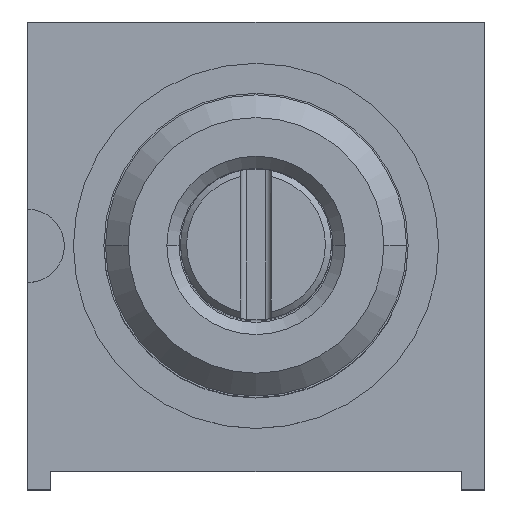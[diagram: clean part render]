
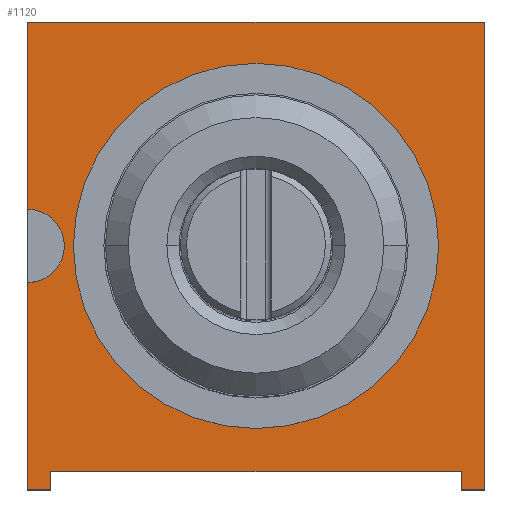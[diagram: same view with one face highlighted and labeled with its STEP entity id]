
A CAD part, top view. The second image highlights one B-rep face of the part: STEP entity #1120.
In plain terms, the highlighted planar face has unit normal (0, 0, 1).
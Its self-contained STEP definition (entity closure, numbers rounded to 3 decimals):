
#92=CIRCLE('',#1247,0.762);
#93=CIRCLE('',#1249,3.81);
#94=CIRCLE('',#1250,3.81);
#399=ORIENTED_EDGE('',*,*,#573,.F.);
#400=ORIENTED_EDGE('',*,*,#574,.F.);
#401=ORIENTED_EDGE('',*,*,#568,.T.);
#402=ORIENTED_EDGE('',*,*,#564,.T.);
#403=ORIENTED_EDGE('',*,*,#562,.T.);
#404=ORIENTED_EDGE('',*,*,#560,.T.);
#405=ORIENTED_EDGE('',*,*,#533,.T.);
#406=ORIENTED_EDGE('',*,*,#531,.T.);
#407=ORIENTED_EDGE('',*,*,#545,.T.);
#408=ORIENTED_EDGE('',*,*,#555,.T.);
#409=ORIENTED_EDGE('',*,*,#571,.T.);
#410=ORIENTED_EDGE('',*,*,#572,.F.);
#531=EDGE_CURVE('',#655,#654,#735,.T.);
#533=EDGE_CURVE('',#656,#655,#737,.T.);
#545=EDGE_CURVE('',#654,#665,#749,.T.);
#555=EDGE_CURVE('',#665,#670,#759,.T.);
#560=EDGE_CURVE('',#672,#656,#764,.T.);
#562=EDGE_CURVE('',#673,#672,#766,.T.);
#564=EDGE_CURVE('',#674,#673,#768,.T.);
#568=EDGE_CURVE('',#677,#674,#771,.T.);
#571=EDGE_CURVE('',#670,#678,#774,.T.);
#572=EDGE_CURVE('',#677,#678,#92,.T.);
#573=EDGE_CURVE('',#679,#680,#93,.T.);
#574=EDGE_CURVE('',#680,#679,#94,.T.);
#654=VERTEX_POINT('',#1864);
#655=VERTEX_POINT('',#1866);
#656=VERTEX_POINT('',#1870);
#665=VERTEX_POINT('',#1893);
#670=VERTEX_POINT('',#1912);
#672=VERTEX_POINT('',#1922);
#673=VERTEX_POINT('',#1926);
#674=VERTEX_POINT('',#1930);
#677=VERTEX_POINT('',#1939);
#678=VERTEX_POINT('',#1942);
#679=VERTEX_POINT('',#1948);
#680=VERTEX_POINT('',#1949);
#735=LINE('',#1865,#829);
#737=LINE('',#1869,#831);
#749=LINE('',#1894,#843);
#759=LINE('',#1913,#853);
#764=LINE('',#1921,#858);
#766=LINE('',#1925,#860);
#768=LINE('',#1929,#862);
#771=LINE('',#1938,#865);
#774=LINE('',#1943,#868);
#829=VECTOR('',#1498,1000.);
#831=VECTOR('',#1502,1000.);
#843=VECTOR('',#1520,1000.);
#853=VECTOR('',#1538,1000.);
#858=VECTOR('',#1547,1000.);
#860=VECTOR('',#1551,1000.);
#862=VECTOR('',#1555,1000.);
#865=VECTOR('',#1564,1000.);
#868=VECTOR('',#1567,1000.);
#941=EDGE_LOOP('',(#399,#400));
#942=EDGE_LOOP('',(#401,#402,#403,#404,#405,#406,#407,#408,#409,#410));
#1017=FACE_BOUND('',#941,.T.);
#1018=FACE_BOUND('',#942,.T.);
#1057=PLANE('',#1248);
#1120=ADVANCED_FACE('',(#1017,#1018),#1057,.T.);
#1247=AXIS2_PLACEMENT_3D('',#1945,#1570,#1571);
#1248=AXIS2_PLACEMENT_3D('',#1946,#1572,#1573);
#1249=AXIS2_PLACEMENT_3D('',#1947,#1574,#1575);
#1250=AXIS2_PLACEMENT_3D('',#1950,#1576,#1577);
#1498=DIRECTION('',(1.,0.,0.));
#1502=DIRECTION('',(0.,-1.,0.));
#1520=DIRECTION('',(0.,1.,0.));
#1538=DIRECTION('',(-1.,0.,0.));
#1547=DIRECTION('',(1.,0.,0.));
#1551=DIRECTION('',(0.,1.,0.));
#1555=DIRECTION('',(1.,0.,0.));
#1564=DIRECTION('',(0.,-1.,0.));
#1567=DIRECTION('',(0.,-1.,0.));
#1570=DIRECTION('',(0.,0.,1.));
#1571=DIRECTION('',(0.,-1.,0.));
#1572=DIRECTION('',(0.,0.,1.));
#1573=DIRECTION('',(1.,0.,0.));
#1574=DIRECTION('',(0.,0.,1.));
#1575=DIRECTION('',(1.,0.,0.));
#1576=DIRECTION('',(0.,0.,1.));
#1577=DIRECTION('',(-1.,0.,0.));
#1864=CARTESIAN_POINT('',(4.763,-5.08,-0.203));
#1865=CARTESIAN_POINT('',(4.28,-5.08,-0.203));
#1866=CARTESIAN_POINT('',(4.28,-5.08,-0.203));
#1869=CARTESIAN_POINT('',(4.28,-4.699,-0.203));
#1870=CARTESIAN_POINT('',(4.28,-4.699,-0.203));
#1893=CARTESIAN_POINT('',(4.763,4.674,-0.203));
#1894=CARTESIAN_POINT('',(4.763,-5.08,-0.203));
#1912=CARTESIAN_POINT('',(-4.763,4.674,-0.203));
#1913=CARTESIAN_POINT('',(4.763,4.674,-0.203));
#1921=CARTESIAN_POINT('',(-4.28,-4.699,-0.203));
#1922=CARTESIAN_POINT('',(-4.28,-4.699,-0.203));
#1925=CARTESIAN_POINT('',(-4.28,-5.08,-0.203));
#1926=CARTESIAN_POINT('',(-4.28,-5.08,-0.203));
#1929=CARTESIAN_POINT('',(-4.763,-5.08,-0.203));
#1930=CARTESIAN_POINT('',(-4.763,-5.08,-0.203));
#1938=CARTESIAN_POINT('',(-4.762,-0.762,-0.203));
#1939=CARTESIAN_POINT('',(-4.763,-0.762,-0.203));
#1942=CARTESIAN_POINT('',(-4.763,0.762,-0.203));
#1943=CARTESIAN_POINT('',(-4.763,4.674,-0.203));
#1945=CARTESIAN_POINT('',(-4.763,0.,-0.203));
#1946=CARTESIAN_POINT('',(0.,-0.203,-0.203));
#1947=CARTESIAN_POINT('',(0.,0.,-0.203));
#1948=CARTESIAN_POINT('',(3.81,0.,-0.203));
#1949=CARTESIAN_POINT('',(-3.81,0.,-0.203));
#1950=CARTESIAN_POINT('',(0.,0.,-0.203));
